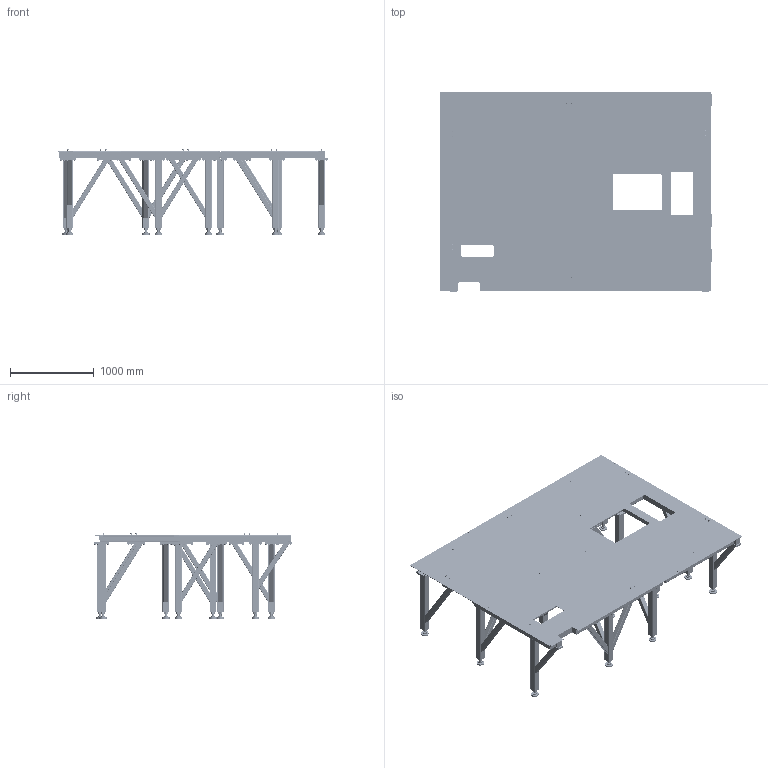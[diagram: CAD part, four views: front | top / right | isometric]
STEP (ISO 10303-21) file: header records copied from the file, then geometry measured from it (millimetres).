
FILE_DESCRIPTION (( 'STEP AP214' ), '1' );
FILE_NAME ('FAU-SELEK12-01.STEP', '2025-07-27T09:34:15', ( '' ), ( '' ), 'SwSTEP 2.0', 'SolidWorks 2017', '' );
FILE_SCHEMA (( 'AUTOMOTIVE_DESIGN' ));
Length unit declared in the file: millimetre
Products named in the file (28): FAU-SELEK12-05_def 1; Z-FAU-SELEK12-05_1+1<Brut d''usinage>; Z-Washer_WASHER M 10; FAU-SELEK12-05; SELEK12-ESQ-NEW; FAU-SELEK12-01; Z-Washer_WASHER L10; Z-Screw_H_SCREW H M10x30-26; Z-M12 ASSY_160; FAU-SELEK12-03; FAU-SELEK12-05_angle; Z-FAU-SELEK12-05_1 spe<Brut d''usinage>; Z-ECROU HM30_‚crou h M30; Z-screw_din_933-m30x120-5_6-b; z_Washer_WASHER M 12; z_NUT_H_NUT H M 12; SELEK12 ESQ CUT; FAU-SELEK12-04; Z-M10 assy; Z-Screw_H_SCREW H M10x40-26; SELEK12 ESQ_D‚faut<Brut d''usinage>; Z-FAU-SELEK12-05_angle<Brut d''usinage>; FAU-SELEK12-02_D‚faut<Brut d''usinage>; Z-Tige filetée - M12_M12x200; FAU-SELEK12-05_def 1 spe; Z-M10 assy_M10-2; Z-FAU-SELEK12-05_D‚faut<Brut d''usinage>
Assembly tree (287 placements, depth 3):
  SELEK12-ESQ-NEW
  FAU-SELEK12-01
    FAU-SELEK12-02_D‚faut<Brut d''usinage>
    FAU-SELEK12-05_angle  x2
      FAU-SELEK12-05
      Z-ECROU HM30_‚crou h M30
      Z-FAU-SELEK12-05_angle<Brut d''usinage>
      Z-screw_din_933-m30x120-5_6-b
    FAU-SELEK12-05  x2
      FAU-SELEK12-05
      Z-ECROU HM30_‚crou h M30
      Z-FAU-SELEK12-05_D‚faut<Brut d''usinage>
      Z-screw_din_933-m30x120-5_6-b
    FAU-SELEK12-05_def 1  x10
      FAU-SELEK12-05
      Z-ECROU HM30_‚crou h M30
      Z-FAU-SELEK12-05_1+1<Brut d''usinage>
      Z-screw_din_933-m30x120-5_6-b
    FAU-SELEK12-04
    FAU-SELEK12-03
    FAU-SELEK12-05_def 1 spe  x2
      FAU-SELEK12-05
      Z-ECROU HM30_‚crou h M30
      Z-FAU-SELEK12-05_1 spe<Brut d''usinage>
      Z-screw_din_933-m30x120-5_6-b
    Z-M10 assy  x217
      Z-Screw_H_SCREW H M10x30-26
      Z-Washer_WASHER M 10
    Z-M12 ASSY_160  x6
      Z-Tige filetée - M12_M12x200
      z_Washer_WASHER M 12
      z_NUT_H_NUT H M 12
    Z-M10 assy_M10-2  x20
      Z-Screw_H_SCREW H M10x40-26
      Z-Washer_WASHER L10
  SELEK12 ESQ CUT
  SELEK12 ESQ_D‚faut<Brut d''usinage>
Bounding box: 3245 x 2385 x 1019 mm (x, y, z)
Volume: 132243782.9 mm3; surface area: 73395353.6 mm2
Topology: 805 solids, 805 shells, 11067 faces, 26179 edges, 16998 vertices
Faces by surface type: plane 4900, cylinder 4329, cone 1806, bspline 32
Entity records: 138815 total; most frequent: CARTESIAN_POINT 22492, DIRECTION 21835, ORIENTED_EDGE 19772, EDGE_CURVE 9886, AXIS2_PLACEMENT_3D 8284, VERTEX_POINT 6487, EDGE_LOOP 5359, VECTOR 5267
